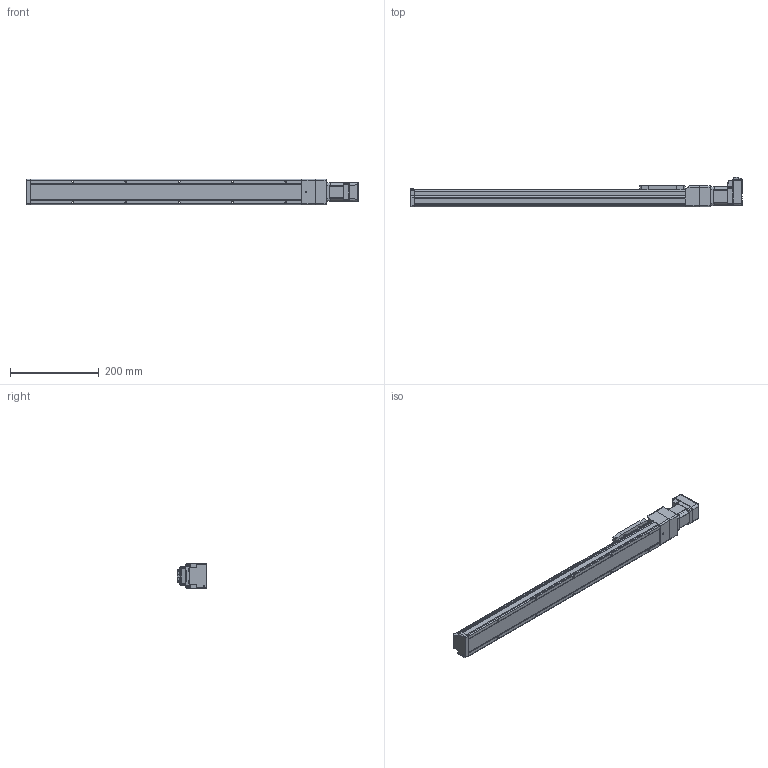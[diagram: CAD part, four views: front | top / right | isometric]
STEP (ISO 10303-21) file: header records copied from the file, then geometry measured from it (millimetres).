
FILE_DESCRIPTION (( 'STEP AP214' ), '1' );
FILE_NAME ('LEFS3(+)-25NM1Œû-500-17L.STEP', '2023-05-31T02:39:14', ( '' ), ( '' ), 'SwSTEP 2.0', 'SolidWorks 2019', '' );
FILE_SCHEMA (( 'AUTOMOTIVE_DESIGN' ));
Length unit declared in the file: millimetre
Products named in the file (5): LEFS3(+)-25NM1_TABLE; LEFS3(+)-25NM1_MOTOR Flange; CM3(+)-17L50A; LEFS3(+)-25NM1仩_BODY_500; LEFS3(+)-25NM1口-500-17L
Assembly tree (4 placements, depth 2):
  LEFS3(+)-25NM1口-500-17L
    LEFS3(+)-25NM1仩_BODY_500
    LEFS3(+)-25NM1_TABLE
    LEFS3(+)-25NM1_MOTOR Flange
    CM3(+)-17L50A
Bounding box: 747.3 x 66.75 x 58 mm (x, y, z)
Volume: 1473752.4 mm3; surface area: 188568.7 mm2
Topology: 5 solids, 5 shells, 999 faces, 2578 edges, 1624 vertices
Faces by surface type: plane 513, cylinder 314, cone 83, torus 39, bspline 29, sphere 21
Entity records: 40528 total; most frequent: CARTESIAN_POINT 7392, ORIENTED_EDGE 5094, DIRECTION 4910, EDGE_CURVE 2547, AXIS2_PLACEMENT_3D 1654, VERTEX_POINT 1624, VECTOR 1602, LINE 1602
